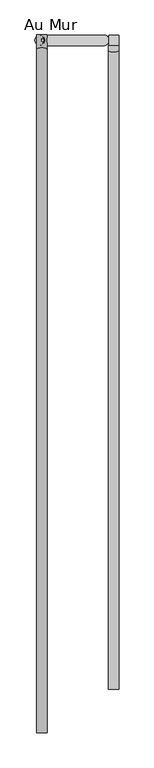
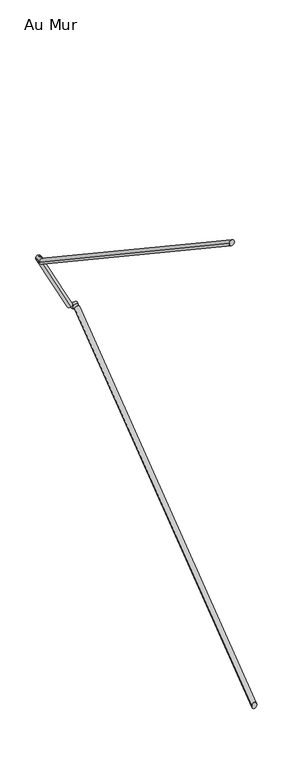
"""IFC4 building model written with IfcOpenShell, lengths in millimetres: railing geometry, Au Mur."""

from ifc_helpers import new_model, si_unit, frame, origin, place, context, project, spatial, circle_curve, ellipse_curve, source, transform, mapped, element, save
from ifc_brep_helpers import plane_surface, cylinder_surface, advanced_brep


def au_mur_cb4e08a8(model_context):
    return source(origin(), model_context, "Body", "AdvancedBrep", [
        advanced_brep(
        [(-10748.5891731, -7254.1151398, 1926.8405647), (-10778.5891731, -7254.1151398, 1926.8405647), (-10748.5891731, -5433.0727266, 3314.5078504), (-10778.5891731, -5433.0727266, 3314.5078504), (-10748.5891731, -5418.7151397, 3314.5078504), (-10778.5891731, -5418.7151397, 3314.5078504)],
        [
            (0, 1, ellipse_curve(frame((-10763.5891731, -7254.1151398, 1926.8405647), z_axis=(0.0, -1.0, 0.0), x_axis=(0.0, 0.0, -1.0)), 18.8587144, 15.0)),
            (1, 0, ellipse_curve(frame((-10763.5891731, -7254.1151398, 1926.8405647), z_axis=(0.0, -1.0, 0.0), x_axis=(0.0, 0.0, -1.0)), 18.8587144, 15.0)),
            (0, 2),
            (2, 3, ellipse_curve(frame((-10763.5891731, -5433.0727266, 3314.5078504), z_axis=(0.0, -0.9474672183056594, -0.3198528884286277), x_axis=(0.0, 0.319852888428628, -0.9474672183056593)), 15.8316823, 15.0)),
            (3, 1),
            (3, 2, ellipse_curve(frame((-10763.5891731, -5433.0727266, 3314.5078504), z_axis=(0.0, -0.9474672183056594, -0.3198528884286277), x_axis=(0.0, 0.319852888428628, -0.9474672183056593)), 15.8316823, 15.0)),
            (4, 5, circle_curve(frame((-10763.5891731, -5418.7151397, 3314.5078504), z_axis=(0.0, 1.0, 0.0), x_axis=(-1.0, 0.0, 0.0)), 15.0)),
            (5, 4, circle_curve(frame((-10763.5891731, -5418.7151397, 3314.5078504), z_axis=(0.0, 1.0, 0.0), x_axis=(-1.0, 0.0, 0.0)), 15.0)),
            (2, 4),
            (5, 3),
        ],
        [
            plane_surface(frame((-10763.5891731, -7254.1151398, 1945.6992791), z_axis=(0.0, -1.0, 0.0), x_axis=(0.0, 0.0, 1.0))),
            cylinder_surface(frame((-10763.5891731, -7245.023636, 1933.7684552), z_axis=(0.0, -0.7953882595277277, -0.6061002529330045), x_axis=(-1.0, 0.0, 0.0)), 15.0),
            plane_surface(frame((-10763.5891731, -5418.7151397, 3329.5078504), z_axis=(0.0, 1.0, 0.0), x_axis=(0.0, 0.0, 1.0))),
            cylinder_surface(frame((-10763.5891731, -5438.136536, 3314.5078504), z_axis=(0.0, -1.0, 0.0), x_axis=(-1.0, 0.0, 0.0)), 15.0),
        ],
        [
            (0, [[1, 2]]),
            (1, [[-1, 3, 4, 5]]),
            (1, [[-2, -5, 6, -3]]),
            (2, [[7, 8]]),
            (3, [[-4, 9, -8, 10]]),
            (3, [[-6, -10, -7, -9]]),
        ],
    ),
        advanced_brep(
        [(-10748.5891731, -5388.7151397, 3314.5078504), (-10748.5891731, -5418.7151397, 3314.5078504), (-10777.0563917, -5388.7151397, 3314.5078504), (-10777.0563917, -5418.7151397, 3314.5078504)],
        [
            (0, 1, circle_curve(frame((-10748.5891731, -5403.7151397, 3314.5078504), z_axis=(1.0, 0.0, 0.0), x_axis=(0.0, -1.0, 0.0)), 15.0)),
            (1, 0, circle_curve(frame((-10748.5891731, -5403.7151397, 3314.5078504), z_axis=(1.0, 0.0, 0.0), x_axis=(0.0, -1.0, 0.0)), 15.0)),
            (2, 3, circle_curve(frame((-10777.0563917, -5403.7151397, 3314.5078504), z_axis=(-1.0, 0.0, 0.0), x_axis=(0.0, -1.0, 0.0)), 15.0)),
            (3, 2, circle_curve(frame((-10777.0563917, -5403.7151397, 3314.5078504), z_axis=(-1.0, 0.0, 0.0), x_axis=(0.0, -1.0, 0.0)), 15.0)),
            (0, 2),
            (3, 1),
        ],
        [
            plane_surface(frame((-10748.5891731, -5403.7151397, 3299.5078504), z_axis=(1.0, 0.0, 0.0), x_axis=(0.0, -1.0, 0.0))),
            plane_surface(frame((-10777.0563917, -5403.7151397, 3299.5078504), z_axis=(-1.0, 0.0, 0.0), x_axis=(0.0, -1.0, 0.0))),
            cylinder_surface(frame((-10748.5891731, -5403.7151397, 3314.5078504), z_axis=(1.0, 0.0, 0.0), x_axis=(0.0, -1.0, 0.0)), 15.0),
        ],
        [
            (0, [[1, 2]]),
            (1, [[3, 4]]),
            (2, [[-1, 5, -4, 6]]),
            (2, [[-2, -6, -3, -5]]),
        ],
    ),
        advanced_brep(
        [(-10790.4003312, -5388.7151397, 3322.6566258), (-10790.4003312, -5418.7151397, 3322.6566258), (-10975.7163029, -5388.7151397, 3683.5913876), (-10975.7163029, -5418.7151397, 3683.5913876)],
        [
            (0, 1, circle_curve(frame((-10790.4003312, -5403.7151397, 3322.6566258), z_axis=(0.4567483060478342, 0.0, -0.8895959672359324), x_axis=(0.0, -1.0, 0.0)), 15.0)),
            (1, 0, circle_curve(frame((-10790.4003312, -5403.7151397, 3322.6566258), z_axis=(0.4567483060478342, 0.0, -0.8895959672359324), x_axis=(0.0, -1.0, 0.0)), 15.0)),
            (2, 3, circle_curve(frame((-10975.7163029, -5403.7151397, 3683.5913876), z_axis=(-0.4567483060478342, 0.0, 0.8895959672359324), x_axis=(0.0, -1.0, 0.0)), 15.0)),
            (3, 2, circle_curve(frame((-10975.7163029, -5403.7151397, 3683.5913876), z_axis=(-0.4567483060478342, 0.0, 0.8895959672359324), x_axis=(0.0, -1.0, 0.0)), 15.0)),
            (0, 2),
            (3, 1),
        ],
        [
            plane_surface(frame((-10777.0563917, -5433.7151397, 3329.5078504), z_axis=(0.456748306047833, 0.0, -0.889595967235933), x_axis=(0.889595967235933, 0.0, 0.456748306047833))),
            plane_surface(frame((-10962.3723634, -5433.7151397, 3690.4426122), z_axis=(-0.456748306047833, 0.0, 0.889595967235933), x_axis=(0.889595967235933, 0.0, 0.456748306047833))),
            cylinder_surface(frame((-10790.4003312, -5403.7151397, 3322.6566258), z_axis=(0.4567483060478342, 0.0, -0.8895959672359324), x_axis=(0.0, -1.0, 0.0)), 15.0),
        ],
        [
            (0, [[1, 2]]),
            (1, [[3, 4]]),
            (2, [[-1, 5, -4, 6]]),
            (2, [[-2, -6, -3, -5]]),
        ],
    ),
        advanced_brep(
        [(-10962.3723634, -5388.7151397, 3675.4426122), (-10962.3723634, -5418.7151397, 3675.4426122), (-10969.3891704, -5388.7151397, 3675.4426122), (-10969.3891704, -5418.7151397, 3675.4426122)],
        [
            (0, 1, circle_curve(frame((-10962.3723634, -5403.7151397, 3675.4426122), z_axis=(1.0, 0.0, 0.0), x_axis=(0.0, -1.0, 0.0)), 15.0)),
            (1, 0, circle_curve(frame((-10962.3723634, -5403.7151397, 3675.4426122), z_axis=(1.0, 0.0, 0.0), x_axis=(0.0, -1.0, 0.0)), 15.0)),
            (2, 3, circle_curve(frame((-10969.3891704, -5403.7151397, 3675.4426122), z_axis=(-1.0, 0.0, 0.0), x_axis=(0.0, -1.0, 0.0)), 15.0)),
            (3, 2, circle_curve(frame((-10969.3891704, -5403.7151397, 3675.4426122), z_axis=(-1.0, 0.0, 0.0), x_axis=(0.0, -1.0, 0.0)), 15.0)),
            (0, 2),
            (3, 1),
        ],
        [
            plane_surface(frame((-10962.3723634, -5403.7151397, 3660.4426122), z_axis=(1.0, 0.0, 0.0), x_axis=(0.0, -1.0, 0.0))),
            plane_surface(frame((-10969.3891704, -5403.7151397, 3660.4426122), z_axis=(-1.0, 0.0, 0.0), x_axis=(0.0, -1.0, 0.0))),
            cylinder_surface(frame((-10962.3723634, -5403.7151397, 3675.4426122), z_axis=(1.0, 0.0, 0.0), x_axis=(0.0, -1.0, 0.0)), 15.0),
        ],
        [
            (0, [[1, 2]]),
            (1, [[3, 4]]),
            (2, [[-1, 5, -4, 6]]),
            (2, [[-2, -6, -3, -5]]),
        ],
    ),
        advanced_brep(
        [(-10984.3891704, -5388.7151397, 3675.4426122), (-10954.3891704, -5388.7151397, 3675.4426122), (-10984.3891704, -5428.7588484, 3675.4426122), (-10954.3891704, -5428.7588484, 3675.4426122), (-10984.3891704, -7379.1151398, 4975.4924197), (-10954.3891704, -7379.1151398, 4975.4924197)],
        [
            (0, 1, circle_curve(frame((-10969.3891704, -5388.7151397, 3675.4426122), z_axis=(0.0, 1.0, 0.0), x_axis=(1.0, 0.0, 0.0)), 15.0)),
            (1, 0, circle_curve(frame((-10969.3891704, -5388.7151397, 3675.4426122), z_axis=(0.0, 1.0, 0.0), x_axis=(1.0, 0.0, 0.0)), 15.0)),
            (0, 2),
            (2, 3, ellipse_curve(frame((-10969.3891704, -5428.7588484, 3675.4426122), z_axis=(0.0, 0.9571016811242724, -0.2897522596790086), x_axis=(0.0, 0.2897522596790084, 0.9571016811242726)), 15.672316, 15.0)),
            (3, 1),
            (3, 2, ellipse_curve(frame((-10969.3891704, -5428.7588484, 3675.4426122), z_axis=(0.0, 0.9571016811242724, -0.2897522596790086), x_axis=(0.0, 0.2897522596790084, 0.9571016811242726)), 15.672316, 15.0)),
            (4, 5, ellipse_curve(frame((-10969.3891704, -7379.1151398, 4975.4924197), z_axis=(0.0, -1.0, 0.0), x_axis=(0.0, 0.0, -1.0)), 18.0269556, 15.0)),
            (5, 4, ellipse_curve(frame((-10969.3891704, -7379.1151398, 4975.4924197), z_axis=(0.0, -1.0, 0.0), x_axis=(0.0, 0.0, -1.0)), 18.0269556, 15.0)),
            (2, 4),
            (5, 3),
        ],
        [
            plane_surface(frame((-10969.3891704, -5388.7151397, 3690.4426122), z_axis=(0.0, 1.0, 0.0), x_axis=(0.0, 0.0, -1.0))),
            cylinder_surface(frame((-10969.3891704, -5388.7151397, 3675.4426122), z_axis=(0.0, 1.0, 0.0), x_axis=(1.0, 0.0, 0.0)), 15.0),
            plane_surface(frame((-10969.3891704, -7379.1151398, 4993.5193753), z_axis=(0.0, -1.0, 0.0), x_axis=(0.0, 0.0, -1.0))),
            cylinder_surface(frame((-10969.3891704, -5432.5374307, 3677.9613033), z_axis=(0.0, 0.8320872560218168, -0.5546447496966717), x_axis=(1.0, 0.0, 0.0)), 15.0),
        ],
        [
            (0, [[1, 2]]),
            (1, [[-1, 3, 4, 5]]),
            (1, [[-2, -5, 6, -3]]),
            (2, [[7, 8]]),
            (3, [[-4, 9, -8, 10]]),
            (3, [[-6, -10, -7, -9]]),
        ],
    ),
    ])


if __name__ == "__main__":
    model = new_model("IFC4")
    model_context = context("Model", 3, world=origin())
    ifc_project = project(units=[si_unit("LENGTHUNIT", "METRE", prefix="MILLI")], contexts=[model_context])
    site = spatial("IfcSite", under=ifc_project)
    building = spatial("IfcBuilding", under=site)
    placement = place(None, origin())
    au_mur_shape = au_mur_cb4e08a8(model_context)
    element("IfcRailing", 1, ObjectType="Au Mur", at=placement, inside=building, context=model_context, shape_type="MappedRepresentation", body=[
        mapped(au_mur_shape, transform((0.0, 0.0, 0.0), x_axis=(1.0, 0.0, 0.0), y_axis=(0.0, 1.0, 0.0), z_axis=(0.0, 0.0, 1.0))),
    ])
    save(model, "model.ifc")
